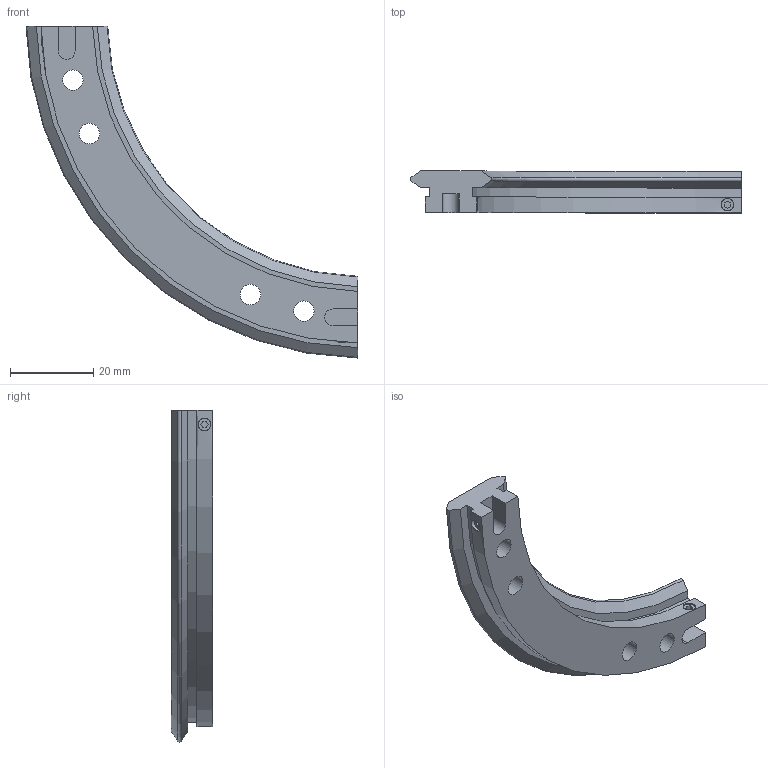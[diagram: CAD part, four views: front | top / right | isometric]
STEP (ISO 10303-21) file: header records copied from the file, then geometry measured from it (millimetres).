
FILE_DESCRIPTION(/* description */ ('STEP AP203'),/* implementation_level */ '2;1');
FILE_NAME(/* name */ 'TR20 143 R90',/* time_stamp */ '2022-06-28T08:57:02+02:00',/* author */ ('License CC BY-ND 4.0'),/* organization */ ('CADENAS'),/* preprocessor_version */ 'ST-DEVELOPER v18.102',/* originating_system */ 'PARTsolutions',/* authorisation */ ' ');
FILE_SCHEMA (('CONFIG_CONTROL_DESIGN'));
Length unit declared in the file: millimetre
Products named in the file (1): TR20 143 R90
Bounding box: 79.8 x 10 x 79.8 mm (x, y, z)
Volume: 13553.9 mm3; surface area: 7534 mm2
Topology: 1 solids, 1 shells, 74 faces, 182 edges, 122 vertices
Faces by surface type: plane 50, cylinder 18, cone 4, torus 2
Full cylindrical faces by diameter (mm): 3 x4, 4.9 x4, 8 x4
Entity records: 2198 total; most frequent: CARTESIAN_POINT 443, DIRECTION 342, ORIENTED_EDGE 336, EDGE_CURVE 168, VERTEX_POINT 120, AXIS2_PLACEMENT_3D 115, LINE 112, VECTOR 112
